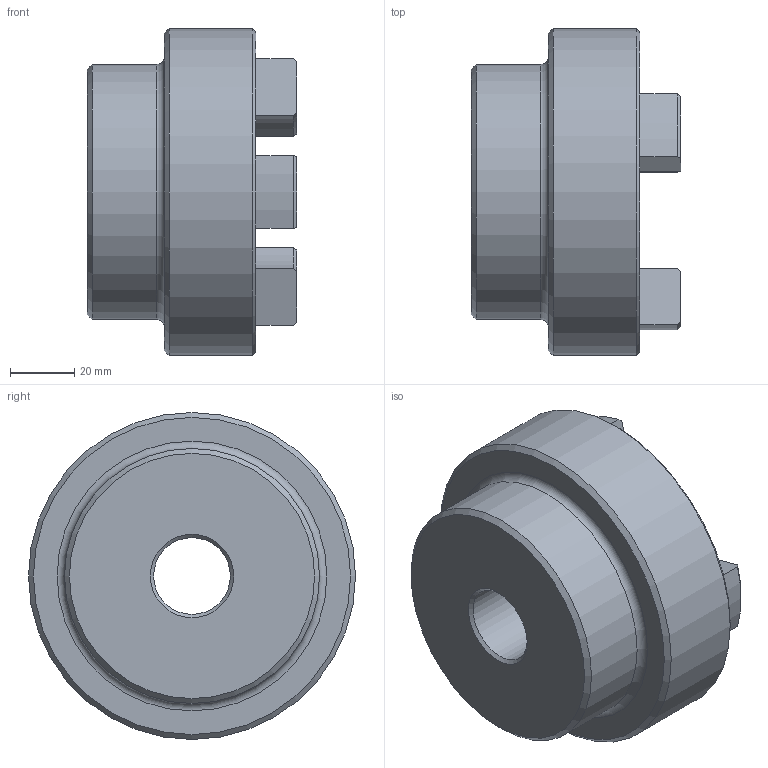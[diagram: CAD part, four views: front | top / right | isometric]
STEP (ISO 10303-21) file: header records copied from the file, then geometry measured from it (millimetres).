
FILE_DESCRIPTION (( 'STEP AP203' ), '1' );
FILE_NAME ('RC4.step', '2024-07-24T17:50:37', ( 'Adlan' ), ( '' ), 'SwSTEP 2.0', 'SolidWorks 2013', '' );
FILE_SCHEMA (( 'CONFIG_CONTROL_DESIGN' ));
Length unit declared in the file: inch
Products named in the file (1): RC4
Bounding box: 65.02 x 101.6 x 101.6 mm (x, y, z)
Volume: 263942.8 mm3; surface area: 40192.7 mm2
Topology: 1 solids, 1 shells, 60 faces, 146 edges, 90 vertices
Faces by surface type: cylinder 24, plane 13, torus 13, cone 10
Full cylindrical faces by diameter (mm): 23.82 x1, 79.248 x1, 101.6 x1
Entity records: 1841 total; most frequent: CARTESIAN_POINT 341, DIRECTION 324, ORIENTED_EDGE 274, EDGE_CURVE 137, AXIS2_PLACEMENT_3D 132, VERTEX_POINT 89, EDGE_LOOP 72, CIRCLE 71
